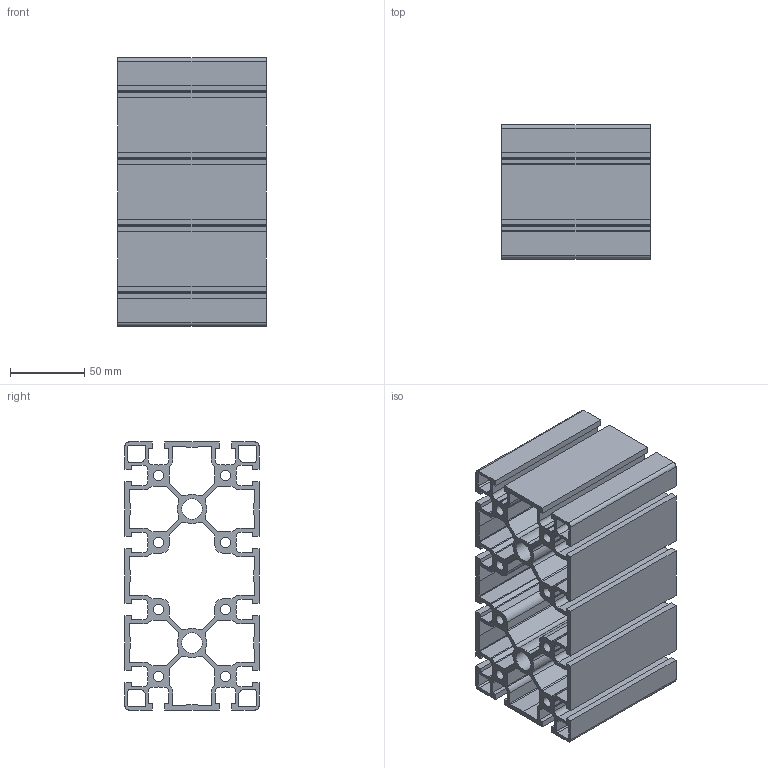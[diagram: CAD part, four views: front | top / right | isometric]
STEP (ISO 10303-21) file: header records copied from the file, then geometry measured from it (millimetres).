
FILE_DESCRIPTION(/* description */ ('STEP AP214'),/* implementation_level */ '2;1');
FILE_NAME(/* name */ 'C:\Users\Stefan.Nesic\Desktop\01010STEP\000Verifica\CORRETTI\PS90180.stp',/* time_stamp */ '2022-07-12T12:16:54+02:00',/* author */ (''),/* organization */ (''),/* preprocessor_version */ 'ST-DEVELOPER v18.1',/* originating_system */ 'Autodesk Inventor 2021',/* authorisation */ '');
FILE_SCHEMA (('AUTOMOTIVE_DESIGN { 1 0 10303 214 3 1 1 }'));
Length unit declared in the file: millimetre
Products named in the file (1): PS90180
Bounding box: 100 x 90 x 180 mm (x, y, z)
Volume: 404411.3 mm3; surface area: 248542.6 mm2
Topology: 1 solids, 1 shells, 416 faces, 1242 edges, 828 vertices
Faces by surface type: plane 234, cylinder 182
Full cylindrical faces by diameter (mm): 6.9 x8, 13.8 x2
Entity records: 14175 total; most frequent: CARTESIAN_POINT 2487, ORIENTED_EDGE 2484, DIRECTION 2440, EDGE_CURVE 1242, LINE 878, VECTOR 878, VERTEX_POINT 828, AXIS2_PLACEMENT_3D 781
